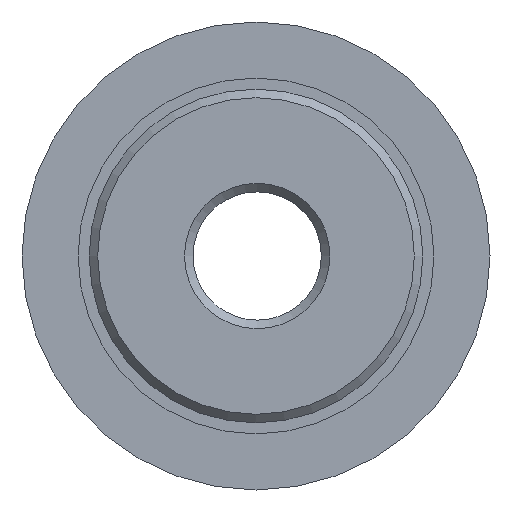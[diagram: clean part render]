
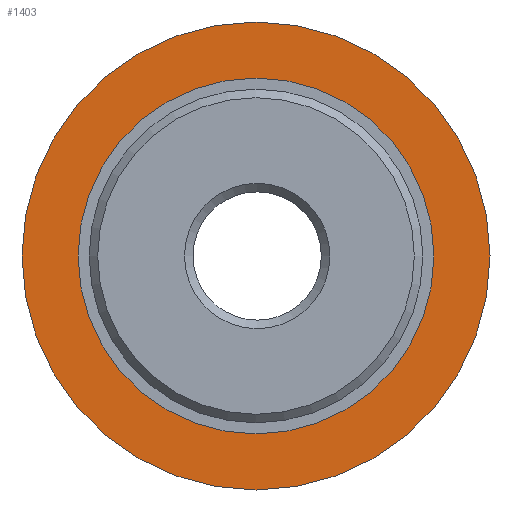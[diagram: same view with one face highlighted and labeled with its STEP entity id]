
A CAD part, left-side view. The second image highlights one B-rep face of the part: STEP entity #1403.
In plain terms, the highlighted planar face has unit normal (-1, 0, 0).
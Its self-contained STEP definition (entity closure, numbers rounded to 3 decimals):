
#79 = AXIS2_PLACEMENT_3D ( 'NONE', #1236, #1240, #1241 ) ;
#135 = AXIS2_PLACEMENT_3D ( 'NONE', #1080, #1081, #1082 ) ;
#136 = AXIS2_PLACEMENT_3D ( 'NONE', #1084, #1085, #1086 ) ;
#268 = CIRCLE ( 'NONE', #135, 20.8 ) ;
#269 = CIRCLE ( 'NONE', #136, 27.35 ) ;
#481 = EDGE_LOOP ( 'NONE', ( #534 ) ) ;
#497 = EDGE_LOOP ( 'NONE', ( #515 ) ) ;
#515 = ORIENTED_EDGE ( 'NONE', *, *, #559, .T. ) ;
#534 = ORIENTED_EDGE ( 'NONE', *, *, #560, .F. ) ;
#559 = EDGE_CURVE ( 'NONE', #864, #864, #268, .T. ) ;
#560 = EDGE_CURVE ( 'NONE', #865, #865, #269, .T. ) ;
#684 = FACE_BOUND ( 'NONE', #497, .T. ) ;
#864 = VERTEX_POINT ( 'NONE', #1333 ) ;
#865 = VERTEX_POINT ( 'NONE', #1334 ) ;
#908 = FACE_OUTER_BOUND ( 'NONE', #481, .T. ) ;
#1080 = CARTESIAN_POINT ( 'NONE',  ( -9.08, 0.138, 0. ) ) ;
#1081 = DIRECTION ( 'NONE',  ( 1., 0., 0. ) ) ;
#1082 = DIRECTION ( 'NONE',  ( 0., 0., -1. ) ) ;
#1084 = CARTESIAN_POINT ( 'NONE',  ( -9.08, 0.138, 0. ) ) ;
#1085 = DIRECTION ( 'NONE',  ( 1., 0., 0. ) ) ;
#1086 = DIRECTION ( 'NONE',  ( 0., 0., -1. ) ) ;
#1236 = CARTESIAN_POINT ( 'NONE',  ( -9.08, 0.138, 0. ) ) ;
#1238 = PLANE ( 'NONE',  #79 ) ;
#1240 = DIRECTION ( 'NONE',  ( 1., 0., 0. ) ) ;
#1241 = DIRECTION ( 'NONE',  ( 0., 0., -1. ) ) ;
#1333 = CARTESIAN_POINT ( 'NONE',  ( -9.08, 0.138, -20.8 ) ) ;
#1334 = CARTESIAN_POINT ( 'NONE',  ( -9.08, 0.138, -27.35 ) ) ;
#1403 = ADVANCED_FACE ( 'NONE', ( #908, #684 ), #1238, .F. ) ;
